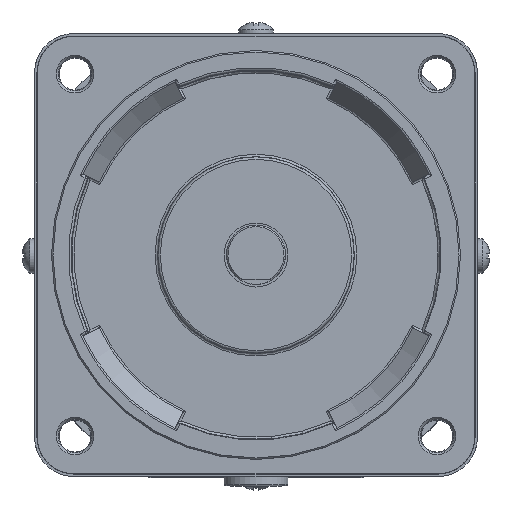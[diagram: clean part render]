
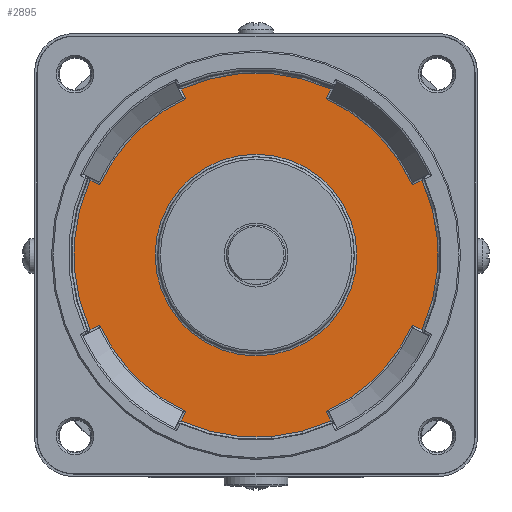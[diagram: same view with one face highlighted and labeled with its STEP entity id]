
A CAD part, top view. The second image highlights one B-rep face of the part: STEP entity #2895.
In plain terms, the highlighted planar face has unit normal (0, 0, 1).
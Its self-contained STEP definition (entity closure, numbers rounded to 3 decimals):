
#248 = EDGE_CURVE ( 'NONE', #915, #13109, #11148, .T. ) ;
#249 = CARTESIAN_POINT ( 'NONE',  ( 31.725, 14.242, -2. ) ) ;
#260 = DIRECTION ( 'NONE',  ( 1., 0., 0. ) ) ;
#314 = CARTESIAN_POINT ( 'NONE',  ( 0.453, 0.211, -2. ) ) ;
#324 = EDGE_CURVE ( 'NONE', #9939, #11453, #3908, .T. ) ;
#350 = CARTESIAN_POINT ( 'NONE',  ( 33.753, -15.188, -2. ) ) ;
#513 = PLANE ( 'NONE',  #5681 ) ;
#614 = DIRECTION ( 'NONE',  ( 1., 0., 0. ) ) ;
#630 = DIRECTION ( 'NONE',  ( 0., 0., 1. ) ) ;
#634 = ORIENTED_EDGE ( 'NONE', *, *, #248, .T. ) ;
#874 = AXIS2_PLACEMENT_3D ( 'NONE', #4713, #11831, #8776 ) ;
#886 = CARTESIAN_POINT ( 'NONE',  ( 0., 0., -2. ) ) ;
#915 = VERTEX_POINT ( 'NONE', #9783 ) ;
#967 = VERTEX_POINT ( 'NONE', #9177 ) ;
#978 = CARTESIAN_POINT ( 'NONE',  ( 0., 0., -2. ) ) ;
#1086 = ORIENTED_EDGE ( 'NONE', *, *, #12468, .T. ) ;
#1100 = DIRECTION ( 'NONE',  ( 1., 0., 0. ) ) ;
#1178 = CIRCLE ( 'NONE', #9042, 20.491 ) ;
#1560 = EDGE_CURVE ( 'NONE', #2220, #9939, #10260, .T. ) ;
#1765 = DIRECTION ( 'NONE',  ( 1., 0., 0. ) ) ;
#1784 = CARTESIAN_POINT ( 'NONE',  ( 0., 0., -2. ) ) ;
#1884 = DIRECTION ( 'NONE',  ( 1., 0., 0. ) ) ;
#1936 = DIRECTION ( 'NONE',  ( 0., 0., 1. ) ) ;
#2172 = DIRECTION ( 'NONE',  ( 0., 0., 1. ) ) ;
#2220 = VERTEX_POINT ( 'NONE', #8127 ) ;
#2243 = CARTESIAN_POINT ( 'NONE',  ( 0., 0., -2. ) ) ;
#2266 = EDGE_CURVE ( 'NONE', #5589, #11935, #12461, .T. ) ;
#2601 = ORIENTED_EDGE ( 'NONE', *, *, #1560, .T. ) ;
#2791 = EDGE_CURVE ( 'NONE', #10311, #967, #7489, .T. ) ;
#2868 = CARTESIAN_POINT ( 'NONE',  ( 0., 0., -2. ) ) ;
#2895 = ADVANCED_FACE ( 'NONE', ( #7697, #11812 ), #513, .T. ) ;
#2979 = EDGE_CURVE ( 'NONE', #5994, #7073, #6748, .T. ) ;
#2991 = ORIENTED_EDGE ( 'NONE', *, *, #12266, .T. ) ;
#3051 = AXIS2_PLACEMENT_3D ( 'NONE', #2243, #7102, #11149 ) ;
#3254 = DIRECTION ( 'NONE',  ( 0., 0., -1. ) ) ;
#3311 = AXIS2_PLACEMENT_3D ( 'NONE', #8740, #630, #1765 ) ;
#3429 = DIRECTION ( 'NONE',  ( 1., 0., 0. ) ) ;
#3515 = CARTESIAN_POINT ( 'NONE',  ( 33.753, 15.188, -2. ) ) ;
#3866 = ORIENTED_EDGE ( 'NONE', *, *, #4923, .T. ) ;
#3895 = DIRECTION ( 'NONE',  ( 0., 0., 1. ) ) ;
#3908 = LINE ( 'NONE', #7162, #7952 ) ;
#4063 = DIRECTION ( 'NONE',  ( 1., 0., 0. ) ) ;
#4224 = CIRCLE ( 'NONE', #11654, 37.013 ) ;
#4227 = CARTESIAN_POINT ( 'NONE',  ( -31.725, -14.242, -2. ) ) ;
#4643 = DIRECTION ( 'NONE',  ( -0.423, -0.906, 0. ) ) ;
#4713 = CARTESIAN_POINT ( 'NONE',  ( 0., 0., -2. ) ) ;
#4741 = CARTESIAN_POINT ( 'NONE',  ( 14.242, 31.725, -2. ) ) ;
#4830 = VECTOR ( 'NONE', #9500, 1000. ) ;
#4869 = VERTEX_POINT ( 'NONE', #11700 ) ;
#4923 = EDGE_CURVE ( 'NONE', #4869, #10311, #4224, .T. ) ;
#5170 = CARTESIAN_POINT ( 'NONE',  ( 20.491, 0., -2. ) ) ;
#5229 = CARTESIAN_POINT ( 'NONE',  ( 31.725, -14.242, -2. ) ) ;
#5270 = VERTEX_POINT ( 'NONE', #7910 ) ;
#5452 = CARTESIAN_POINT ( 'NONE',  ( 0., 0., -2. ) ) ;
#5515 = CARTESIAN_POINT ( 'NONE',  ( -15.395, -34.198, -2. ) ) ;
#5589 = VERTEX_POINT ( 'NONE', #249 ) ;
#5607 = CIRCLE ( 'NONE', #9848, 34.775 ) ;
#5620 = DIRECTION ( 'NONE',  ( 0.423, 0.906, 0. ) ) ;
#5626 = EDGE_CURVE ( 'NONE', #11935, #4869, #7750, .T. ) ;
#5681 = AXIS2_PLACEMENT_3D ( 'NONE', #1784, #8695, #11674 ) ;
#5683 = DIRECTION ( 'NONE',  ( -0.906, -0.423, 0. ) ) ;
#5804 = ORIENTED_EDGE ( 'NONE', *, *, #5626, .T. ) ;
#5974 = CIRCLE ( 'NONE', #874, 37.013 ) ;
#5994 = VERTEX_POINT ( 'NONE', #350 ) ;
#5995 = ORIENTED_EDGE ( 'NONE', *, *, #324, .T. ) ;
#6086 = AXIS2_PLACEMENT_3D ( 'NONE', #886, #7069, #4063 ) ;
#6145 = ORIENTED_EDGE ( 'NONE', *, *, #7051, .T. ) ;
#6235 = VECTOR ( 'NONE', #12146, 1000. ) ;
#6276 = VECTOR ( 'NONE', #6794, 1000. ) ;
#6661 = LINE ( 'NONE', #12905, #6276 ) ;
#6688 = LINE ( 'NONE', #8678, #7041 ) ;
#6748 = CIRCLE ( 'NONE', #12250, 37.013 ) ;
#6785 = EDGE_CURVE ( 'NONE', #7073, #5589, #6688, .T. ) ;
#6794 = DIRECTION ( 'NONE',  ( 0.906, -0.423, 0. ) ) ;
#7041 = VECTOR ( 'NONE', #5683, 1000. ) ;
#7051 = EDGE_CURVE ( 'NONE', #13109, #12508, #5974, .T. ) ;
#7069 = DIRECTION ( 'NONE',  ( 0., 0., 1. ) ) ;
#7073 = VERTEX_POINT ( 'NONE', #3515 ) ;
#7102 = DIRECTION ( 'NONE',  ( 0., 0., 1. ) ) ;
#7162 = CARTESIAN_POINT ( 'NONE',  ( -0.453, -0.211, -2. ) ) ;
#7242 = CARTESIAN_POINT ( 'NONE',  ( -33.753, -15.188, -2. ) ) ;
#7489 = LINE ( 'NONE', #314, #4830 ) ;
#7522 = EDGE_CURVE ( 'NONE', #12508, #8839, #8431, .T. ) ;
#7572 = CARTESIAN_POINT ( 'NONE',  ( 15.188, -33.753, -2. ) ) ;
#7697 = FACE_OUTER_BOUND ( 'NONE', #11804, .T. ) ;
#7750 = LINE ( 'NONE', #12347, #8458 ) ;
#7910 = CARTESIAN_POINT ( 'NONE',  ( -14.242, -31.725, -2. ) ) ;
#7952 = VECTOR ( 'NONE', #9100, 1000. ) ;
#8127 = CARTESIAN_POINT ( 'NONE',  ( -15.188, -33.753, -2. ) ) ;
#8147 = CIRCLE ( 'NONE', #3051, 34.775 ) ;
#8233 = DIRECTION ( 'NONE',  ( 0.906, 0.423, 0. ) ) ;
#8358 = AXIS2_PLACEMENT_3D ( 'NONE', #12343, #2172, #3429 ) ;
#8431 = LINE ( 'NONE', #10222, #11065 ) ;
#8447 = ORIENTED_EDGE ( 'NONE', *, *, #12888, .T. ) ;
#8458 = VECTOR ( 'NONE', #5620, 1000. ) ;
#8499 = ORIENTED_EDGE ( 'NONE', *, *, #9965, .T. ) ;
#8636 = LINE ( 'NONE', #5515, #11972 ) ;
#8678 = CARTESIAN_POINT ( 'NONE',  ( 0.211, -0.453, -2. ) ) ;
#8695 = DIRECTION ( 'NONE',  ( 0., 0., 1. ) ) ;
#8740 = CARTESIAN_POINT ( 'NONE',  ( 0., 0., -2. ) ) ;
#8776 = DIRECTION ( 'NONE',  ( 1., 0., 0. ) ) ;
#8839 = VERTEX_POINT ( 'NONE', #4227 ) ;
#8864 = ORIENTED_EDGE ( 'NONE', *, *, #9497, .T. ) ;
#8966 = CARTESIAN_POINT ( 'NONE',  ( -34.198, 15.395, -2. ) ) ;
#9004 = ORIENTED_EDGE ( 'NONE', *, *, #7522, .T. ) ;
#9042 = AXIS2_PLACEMENT_3D ( 'NONE', #5452, #3254, #260 ) ;
#9100 = DIRECTION ( 'NONE',  ( -0.423, 0.906, 0. ) ) ;
#9125 = ORIENTED_EDGE ( 'NONE', *, *, #11168, .T. ) ;
#9177 = CARTESIAN_POINT ( 'NONE',  ( -14.242, 31.725, -2. ) ) ;
#9223 = ORIENTED_EDGE ( 'NONE', *, *, #2979, .T. ) ;
#9497 = EDGE_CURVE ( 'NONE', #11453, #12717, #5607, .T. ) ;
#9500 = DIRECTION ( 'NONE',  ( 0.423, -0.906, 0. ) ) ;
#9622 = CARTESIAN_POINT ( 'NONE',  ( -15.188, 33.753, -2. ) ) ;
#9694 = CARTESIAN_POINT ( 'NONE',  ( 14.242, -31.725, -2. ) ) ;
#9783 = CARTESIAN_POINT ( 'NONE',  ( -31.725, 14.242, -2. ) ) ;
#9848 = AXIS2_PLACEMENT_3D ( 'NONE', #11980, #10979, #1884 ) ;
#9900 = CIRCLE ( 'NONE', #3311, 34.775 ) ;
#9939 = VERTEX_POINT ( 'NONE', #7572 ) ;
#9965 = EDGE_CURVE ( 'NONE', #5270, #2220, #8636, .T. ) ;
#10222 = CARTESIAN_POINT ( 'NONE',  ( -0.211, 0.453, -2. ) ) ;
#10260 = CIRCLE ( 'NONE', #8358, 37.013 ) ;
#10279 = VERTEX_POINT ( 'NONE', #5170 ) ;
#10311 = VERTEX_POINT ( 'NONE', #9622 ) ;
#10535 = EDGE_LOOP ( 'NONE', ( #1086 ) ) ;
#10796 = ORIENTED_EDGE ( 'NONE', *, *, #2791, .T. ) ;
#10909 = ORIENTED_EDGE ( 'NONE', *, *, #6785, .T. ) ;
#10979 = DIRECTION ( 'NONE',  ( 0., 0., 1. ) ) ;
#11065 = VECTOR ( 'NONE', #8233, 1000. ) ;
#11148 = LINE ( 'NONE', #8966, #6235 ) ;
#11149 = DIRECTION ( 'NONE',  ( 1., 0., 0. ) ) ;
#11168 = EDGE_CURVE ( 'NONE', #967, #915, #8147, .T. ) ;
#11352 = ORIENTED_EDGE ( 'NONE', *, *, #2266, .T. ) ;
#11453 = VERTEX_POINT ( 'NONE', #9694 ) ;
#11654 = AXIS2_PLACEMENT_3D ( 'NONE', #2868, #1936, #614 ) ;
#11674 = DIRECTION ( 'NONE',  ( 1., 0., 0. ) ) ;
#11700 = CARTESIAN_POINT ( 'NONE',  ( 15.188, 33.753, -2. ) ) ;
#11804 = EDGE_LOOP ( 'NONE', ( #8864, #2991, #9223, #10909, #11352, #5804, #3866, #10796, #9125, #634, #6145, #9004, #8447, #8499, #2601, #5995 ) ) ;
#11812 = FACE_BOUND ( 'NONE', #10535, .T. ) ;
#11831 = DIRECTION ( 'NONE',  ( 0., 0., 1. ) ) ;
#11935 = VERTEX_POINT ( 'NONE', #4741 ) ;
#11972 = VECTOR ( 'NONE', #4643, 1000. ) ;
#11980 = CARTESIAN_POINT ( 'NONE',  ( 0., 0., -2. ) ) ;
#12146 = DIRECTION ( 'NONE',  ( -0.906, 0.423, 0. ) ) ;
#12250 = AXIS2_PLACEMENT_3D ( 'NONE', #978, #3895, #1100 ) ;
#12266 = EDGE_CURVE ( 'NONE', #12717, #5994, #6661, .T. ) ;
#12311 = CARTESIAN_POINT ( 'NONE',  ( -33.753, 15.188, -2. ) ) ;
#12343 = CARTESIAN_POINT ( 'NONE',  ( 0., 0., -2. ) ) ;
#12347 = CARTESIAN_POINT ( 'NONE',  ( 15.395, 34.198, -2. ) ) ;
#12461 = CIRCLE ( 'NONE', #6086, 34.775 ) ;
#12468 = EDGE_CURVE ( 'NONE', #10279, #10279, #1178, .T. ) ;
#12508 = VERTEX_POINT ( 'NONE', #7242 ) ;
#12717 = VERTEX_POINT ( 'NONE', #5229 ) ;
#12888 = EDGE_CURVE ( 'NONE', #8839, #5270, #9900, .T. ) ;
#12905 = CARTESIAN_POINT ( 'NONE',  ( 34.198, -15.395, -2. ) ) ;
#13109 = VERTEX_POINT ( 'NONE', #12311 ) ;
